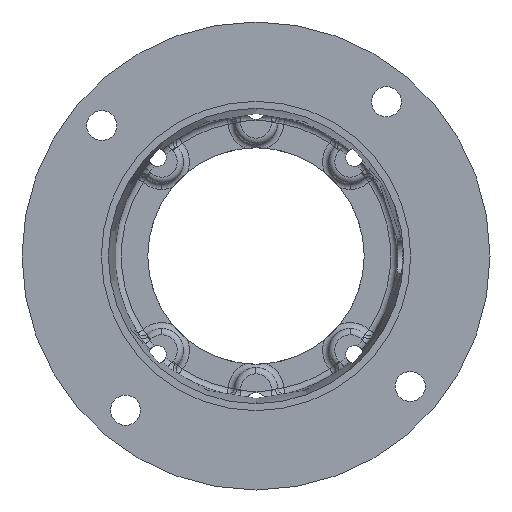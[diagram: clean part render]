
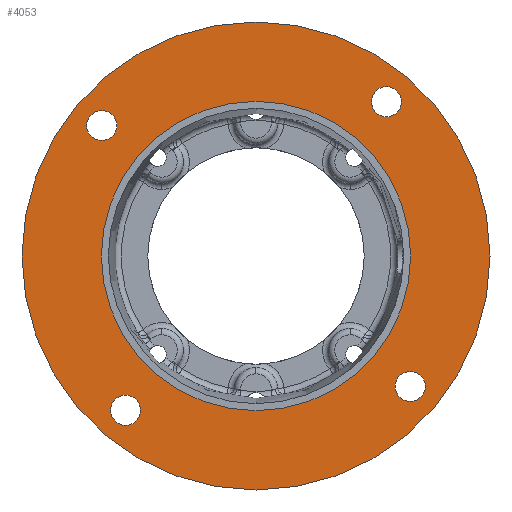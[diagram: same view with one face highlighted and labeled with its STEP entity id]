
A CAD part, front view. The second image highlights one B-rep face of the part: STEP entity #4053.
In plain terms, the highlighted planar face has unit normal (0, -1, 0).
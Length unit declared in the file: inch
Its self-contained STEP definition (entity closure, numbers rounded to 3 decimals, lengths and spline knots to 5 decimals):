
#4 = CIRCLE ( 'NONE', #6273, 0.21875 ) ;
#27 = VERTEX_POINT ( 'NONE', #5750 ) ;
#44 = VERTEX_POINT ( 'NONE', #7932 ) ;
#351 = EDGE_LOOP ( 'NONE', ( #5973, #6994 ) ) ;
#385 = CARTESIAN_POINT ( 'NONE',  ( 1.89861, 0.103, 2.4635 ) ) ;
#397 = AXIS2_PLACEMENT_3D ( 'NONE', #8601, #4294, #9322 ) ;
#513 = EDGE_LOOP ( 'NONE', ( #7179, #6166 ) ) ;
#518 = DIRECTION ( 'NONE',  ( 0., -1., 0. ) ) ;
#582 = EDGE_CURVE ( 'NONE', #27, #8052, #958, .T. ) ;
#590 = DIRECTION ( 'NONE',  ( 0., -1., 0. ) ) ;
#638 = AXIS2_PLACEMENT_3D ( 'NONE', #3718, #8753, #4455 ) ;
#651 = DIRECTION ( 'NONE',  ( 0., -1., 0. ) ) ;
#681 = ORIENTED_EDGE ( 'NONE', *, *, #4952, .F. ) ;
#958 = CIRCLE ( 'NONE', #5382, 2.2505 ) ;
#1335 = CARTESIAN_POINT ( 'NONE',  ( 0., 0.103, 0. ) ) ;
#1369 = FACE_BOUND ( 'NONE', #4356, .T. ) ;
#1496 = CARTESIAN_POINT ( 'NONE',  ( 0., 0.103, 0. ) ) ;
#1650 = VERTEX_POINT ( 'NONE', #6924 ) ;
#1688 = ORIENTED_EDGE ( 'NONE', *, *, #6377, .F. ) ;
#1798 = CARTESIAN_POINT ( 'NONE',  ( 0., 0.103, 3.405 ) ) ;
#1970 = EDGE_CURVE ( 'NONE', #6961, #1650, #6838, .T. ) ;
#2230 = DIRECTION ( 'NONE',  ( 0., 0., -1. ) ) ;
#2292 = DIRECTION ( 'NONE',  ( 0., -1., 0. ) ) ;
#2398 = VERTEX_POINT ( 'NONE', #385 ) ;
#2623 = CARTESIAN_POINT ( 'NONE',  ( 2.24475, 0.103, -1.89861 ) ) ;
#2727 = DIRECTION ( 'NONE',  ( 0., -1., 0. ) ) ;
#3090 = FACE_BOUND ( 'NONE', #8085, .T. ) ;
#3103 = CARTESIAN_POINT ( 'NONE',  ( 1.89861, 0.103, 2.24475 ) ) ;
#3261 = EDGE_CURVE ( 'NONE', #1650, #6961, #8238, .T. ) ;
#3289 = CIRCLE ( 'NONE', #7959, 0.21875 ) ;
#3342 = DIRECTION ( 'NONE',  ( 0., 0., -1. ) ) ;
#3355 = AXIS2_PLACEMENT_3D ( 'NONE', #8120, #3814, #8842 ) ;
#3550 = CARTESIAN_POINT ( 'NONE',  ( -1.89861, 0.103, -2.24475 ) ) ;
#3718 = CARTESIAN_POINT ( 'NONE',  ( 2.24475, 0.103, -1.89861 ) ) ;
#3814 = DIRECTION ( 'NONE',  ( 0., -1., 0. ) ) ;
#3832 = DIRECTION ( 'NONE',  ( 0., 0., -1. ) ) ;
#3859 = CIRCLE ( 'NONE', #4469, 3.405 ) ;
#3870 = CIRCLE ( 'NONE', #4521, 0.21875 ) ;
#3875 = EDGE_CURVE ( 'NONE', #5417, #7183, #3992, .T. ) ;
#3971 = CIRCLE ( 'NONE', #8547, 3.405 ) ;
#3977 = CARTESIAN_POINT ( 'NONE',  ( 0., 0.103, 0. ) ) ;
#3992 = CIRCLE ( 'NONE', #397, 0.21875 ) ;
#4016 = EDGE_LOOP ( 'NONE', ( #1688, #681 ) ) ;
#4053 = ADVANCED_FACE ( 'NONE', ( #8833, #1369, #5006, #9275, #3090, #6916 ), #9297, .T. ) ;
#4104 = AXIS2_PLACEMENT_3D ( 'NONE', #3977, #9003, #4705 ) ;
#4284 = DIRECTION ( 'NONE',  ( 0., 0., -1. ) ) ;
#4294 = DIRECTION ( 'NONE',  ( 0., -1., 0. ) ) ;
#4340 = VERTEX_POINT ( 'NONE', #8981 ) ;
#4356 = EDGE_LOOP ( 'NONE', ( #4586, #8246 ) ) ;
#4358 = EDGE_CURVE ( 'NONE', #8052, #27, #6816, .T. ) ;
#4420 = VERTEX_POINT ( 'NONE', #9066 ) ;
#4455 = DIRECTION ( 'NONE',  ( 0., 0., -1. ) ) ;
#4469 = AXIS2_PLACEMENT_3D ( 'NONE', #7049, #2727, #7766 ) ;
#4521 = AXIS2_PLACEMENT_3D ( 'NONE', #4856, #518, #5574 ) ;
#4561 = ORIENTED_EDGE ( 'NONE', *, *, #4358, .F. ) ;
#4586 = ORIENTED_EDGE ( 'NONE', *, *, #1970, .F. ) ;
#4610 = CARTESIAN_POINT ( 'NONE',  ( -1.89861, 0.103, -2.026 ) ) ;
#4705 = DIRECTION ( 'NONE',  ( 0., 0., -1. ) ) ;
#4760 = AXIS2_PLACEMENT_3D ( 'NONE', #1335, #651, #5706 ) ;
#4856 = CARTESIAN_POINT ( 'NONE',  ( 1.89861, 0.103, 2.24475 ) ) ;
#4927 = CARTESIAN_POINT ( 'NONE',  ( 0., 0.103, 0. ) ) ;
#4952 = EDGE_CURVE ( 'NONE', #2398, #44, #3870, .T. ) ;
#5006 = FACE_BOUND ( 'NONE', #513, .T. ) ;
#5113 = ORIENTED_EDGE ( 'NONE', *, *, #8505, .F. ) ;
#5382 = AXIS2_PLACEMENT_3D ( 'NONE', #4927, #590, #5639 ) ;
#5406 = AXIS2_PLACEMENT_3D ( 'NONE', #6617, #2292, #7329 ) ;
#5417 = VERTEX_POINT ( 'NONE', #6248 ) ;
#5574 = DIRECTION ( 'NONE',  ( 0., 0., -1. ) ) ;
#5639 = DIRECTION ( 'NONE',  ( 0., 0., -1. ) ) ;
#5645 = CIRCLE ( 'NONE', #638, 0.21875 ) ;
#5706 = DIRECTION ( 'NONE',  ( 0., 0., -1. ) ) ;
#5750 = CARTESIAN_POINT ( 'NONE',  ( 0., 0.103, -2.2505 ) ) ;
#5752 = EDGE_CURVE ( 'NONE', #4420, #7451, #3859, .T. ) ;
#5973 = ORIENTED_EDGE ( 'NONE', *, *, #5752, .T. ) ;
#6166 = ORIENTED_EDGE ( 'NONE', *, *, #7521, .F. ) ;
#6248 = CARTESIAN_POINT ( 'NONE',  ( -1.89861, 0.103, -2.4635 ) ) ;
#6273 = AXIS2_PLACEMENT_3D ( 'NONE', #2623, #7663, #3342 ) ;
#6377 = EDGE_CURVE ( 'NONE', #44, #2398, #3289, .T. ) ;
#6556 = DIRECTION ( 'NONE',  ( 0., -1., 0. ) ) ;
#6617 = CARTESIAN_POINT ( 'NONE',  ( -2.24475, 0.103, 1.89861 ) ) ;
#6816 = CIRCLE ( 'NONE', #4104, 2.2505 ) ;
#6838 = CIRCLE ( 'NONE', #5406, 0.21875 ) ;
#6860 = CARTESIAN_POINT ( 'NONE',  ( 0., 0.103, 2.2505 ) ) ;
#6916 = FACE_OUTER_BOUND ( 'NONE', #351, .T. ) ;
#6924 = CARTESIAN_POINT ( 'NONE',  ( -2.24475, 0.103, 2.11736 ) ) ;
#6961 = VERTEX_POINT ( 'NONE', #9188 ) ;
#6994 = ORIENTED_EDGE ( 'NONE', *, *, #7078, .T. ) ;
#7049 = CARTESIAN_POINT ( 'NONE',  ( 0., 0.103, 0. ) ) ;
#7078 = EDGE_CURVE ( 'NONE', #7451, #4420, #3971, .T. ) ;
#7116 = EDGE_CURVE ( 'NONE', #7242, #4340, #5645, .T. ) ;
#7179 = ORIENTED_EDGE ( 'NONE', *, *, #7116, .F. ) ;
#7183 = VERTEX_POINT ( 'NONE', #4610 ) ;
#7242 = VERTEX_POINT ( 'NONE', #7556 ) ;
#7329 = DIRECTION ( 'NONE',  ( 0., 0., -1. ) ) ;
#7451 = VERTEX_POINT ( 'NONE', #1798 ) ;
#7521 = EDGE_CURVE ( 'NONE', #4340, #7242, #4, .T. ) ;
#7556 = CARTESIAN_POINT ( 'NONE',  ( 2.24475, 0.103, -2.11736 ) ) ;
#7663 = DIRECTION ( 'NONE',  ( 0., -1., 0. ) ) ;
#7766 = DIRECTION ( 'NONE',  ( 0., 0., -1. ) ) ;
#7797 = AXIS2_PLACEMENT_3D ( 'NONE', #3550, #8587, #4284 ) ;
#7932 = CARTESIAN_POINT ( 'NONE',  ( 1.89861, 0.103, 2.026 ) ) ;
#7959 = AXIS2_PLACEMENT_3D ( 'NONE', #3103, #8143, #3832 ) ;
#8052 = VERTEX_POINT ( 'NONE', #6860 ) ;
#8085 = EDGE_LOOP ( 'NONE', ( #8199, #4561 ) ) ;
#8120 = CARTESIAN_POINT ( 'NONE',  ( -2.24475, 0.103, 1.89861 ) ) ;
#8143 = DIRECTION ( 'NONE',  ( 0., -1., 0. ) ) ;
#8199 = ORIENTED_EDGE ( 'NONE', *, *, #582, .F. ) ;
#8238 = CIRCLE ( 'NONE', #3355, 0.21875 ) ;
#8246 = ORIENTED_EDGE ( 'NONE', *, *, #3261, .F. ) ;
#8418 = EDGE_LOOP ( 'NONE', ( #8600, #5113 ) ) ;
#8505 = EDGE_CURVE ( 'NONE', #7183, #5417, #8911, .T. ) ;
#8547 = AXIS2_PLACEMENT_3D ( 'NONE', #1496, #6556, #2230 ) ;
#8587 = DIRECTION ( 'NONE',  ( 0., -1., 0. ) ) ;
#8600 = ORIENTED_EDGE ( 'NONE', *, *, #3875, .F. ) ;
#8601 = CARTESIAN_POINT ( 'NONE',  ( -1.89861, 0.103, -2.24475 ) ) ;
#8753 = DIRECTION ( 'NONE',  ( 0., -1., 0. ) ) ;
#8833 = FACE_BOUND ( 'NONE', #4016, .T. ) ;
#8842 = DIRECTION ( 'NONE',  ( 0., 0., -1. ) ) ;
#8911 = CIRCLE ( 'NONE', #7797, 0.21875 ) ;
#8981 = CARTESIAN_POINT ( 'NONE',  ( 2.24475, 0.103, -1.67986 ) ) ;
#9003 = DIRECTION ( 'NONE',  ( 0., -1., 0. ) ) ;
#9066 = CARTESIAN_POINT ( 'NONE',  ( 0., 0.103, -3.405 ) ) ;
#9188 = CARTESIAN_POINT ( 'NONE',  ( -2.24475, 0.103, 1.67986 ) ) ;
#9275 = FACE_BOUND ( 'NONE', #8418, .T. ) ;
#9297 = PLANE ( 'NONE',  #4760 ) ;
#9322 = DIRECTION ( 'NONE',  ( 0., 0., -1. ) ) ;
